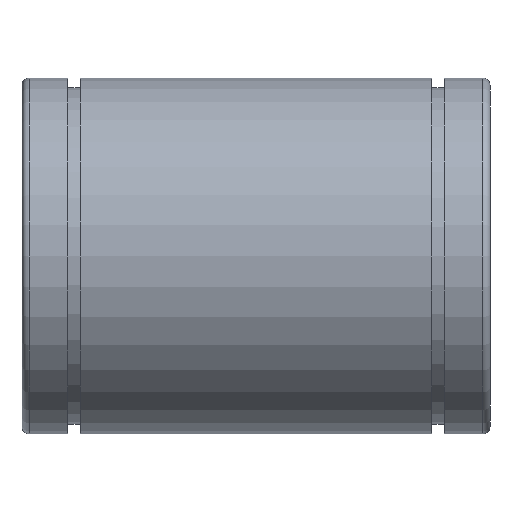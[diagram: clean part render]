
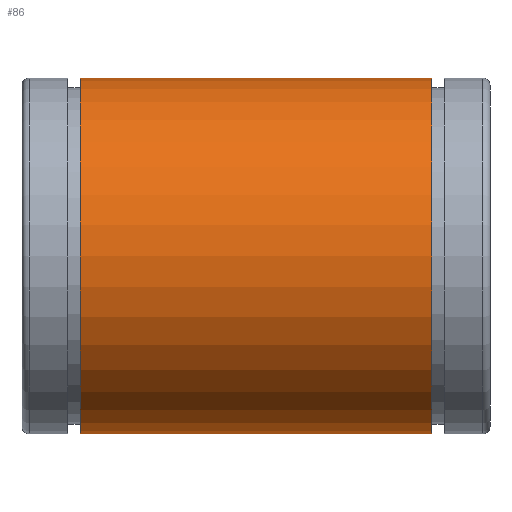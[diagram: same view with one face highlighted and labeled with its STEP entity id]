
A CAD part, front view. The second image highlights one B-rep face of the part: STEP entity #86.
In plain terms, the highlighted cylindrical face has radius 38 mm (diameter 76 mm), a full revolution.
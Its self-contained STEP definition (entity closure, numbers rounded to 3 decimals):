
#86=ADVANCED_FACE('',(#123,#124),#125,.T.);
#123=FACE_OUTER_BOUND('',#165,.T.);
#124=FACE_OUTER_BOUND('',#166,.T.);
#125=CYLINDRICAL_SURFACE('',#167,38.0);
#165=EDGE_LOOP('',(#229));
#166=EDGE_LOOP('',(#230));
#167=AXIS2_PLACEMENT_3D('',#231,#232,#233);
#229=ORIENTED_EDGE('',*,*,#257,.F.);
#230=ORIENTED_EDGE('',*,*,#256,.T.);
#231=CARTESIAN_POINT('',(0.0,0.0,0.0));
#232=DIRECTION('',(1.0,-0.0,-0.0));
#233=DIRECTION('',(0.0,1.0,0.0));
#256=EDGE_CURVE('',#282,#282,#283,.T.);
#257=EDGE_CURVE('',#284,#284,#285,.T.);
#282=VERTEX_POINT('',#310);
#283=CIRCLE('',#311,38.0);
#284=VERTEX_POINT('',#312);
#285=CIRCLE('',#313,38.0);
#310=CARTESIAN_POINT('',(-37.55,38.0,0.0));
#311=AXIS2_PLACEMENT_3D('',#350,#351,#352);
#312=CARTESIAN_POINT('',(37.55,38.0,0.0));
#313=AXIS2_PLACEMENT_3D('',#353,#354,#355);
#350=CARTESIAN_POINT('',(-37.55,0.0,0.0));
#351=DIRECTION('',(1.0,0.0,0.0));
#352=DIRECTION('',(0.0,1.0,0.0));
#353=CARTESIAN_POINT('',(37.55,0.0,0.0));
#354=DIRECTION('',(1.0,0.0,0.0));
#355=DIRECTION('',(0.0,1.0,0.0));
